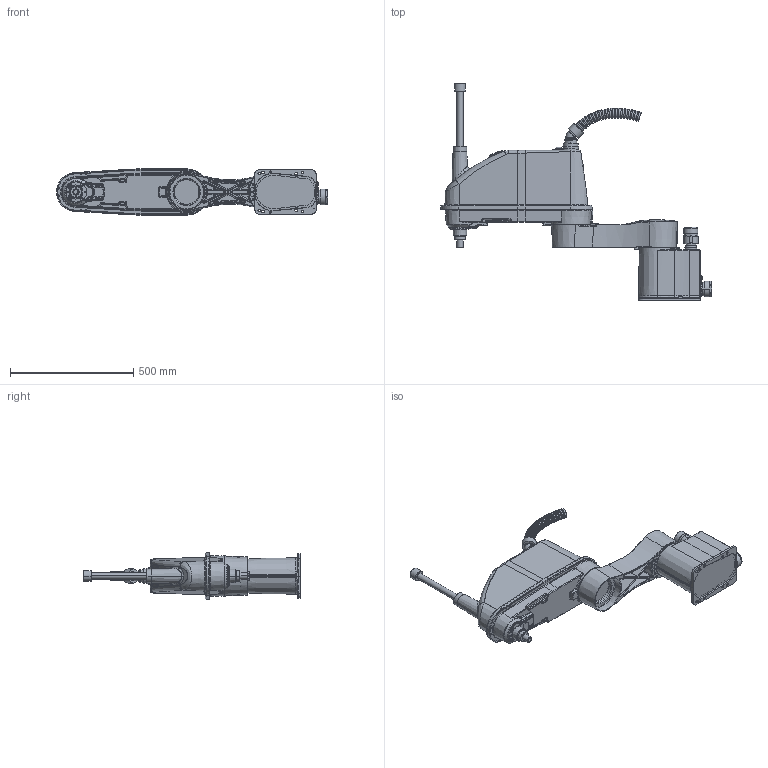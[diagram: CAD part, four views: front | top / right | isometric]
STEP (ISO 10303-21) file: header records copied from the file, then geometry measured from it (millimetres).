
FILE_DESCRIPTION((''),'2;1');
FILE_NAME('THE800_3D_STEP_ASM','2024-06-10T09:03:47',('15575'),(''),'CREO PARAMETRIC BY PTC INC, 2020454','CREO PARAMETRIC BY PTC INC, 2020454','');
FILE_SCHEMA(('AUTOMOTIVE_DESIGN { 1 0 10303 214 1 1 1 1 }'));
Products named in the file (5): MSBR-1; THE800_1ST_ARM_; THE800_BALL_SCREW; THE800_2ND_ARM_2; THE800_3D_STEP_ASM
Assembly tree (4 placements, depth 2):
  THE800_3D_STEP_ASM
    MSBR-1
    THE800_1ST_ARM_
    THE800_BALL_SCREW
    THE800_2ND_ARM_2
Bounding box: 1101 x 880 x 188 mm (x, y, z)
Volume: 9843644.4 mm3; surface area: 2046248.3 mm2
Topology: 11 solids, 46 shells, 3943 faces, 9362 edges, 5715 vertices
Faces by surface type: cylinder 1372, plane 1365, bspline 445, torus 377, cone 240, sphere 140, revolution 2, extrusion 2
Entity records: 164376 total; most frequent: CARTESIAN_POINT 54253, DIRECTION 18531, ORIENTED_EDGE 18356, EDGE_CURVE 9179, AXIS2_PLACEMENT_3D 7265, VERTEX_POINT 5687, EDGE_LOOP 4437, VECTOR 3984
